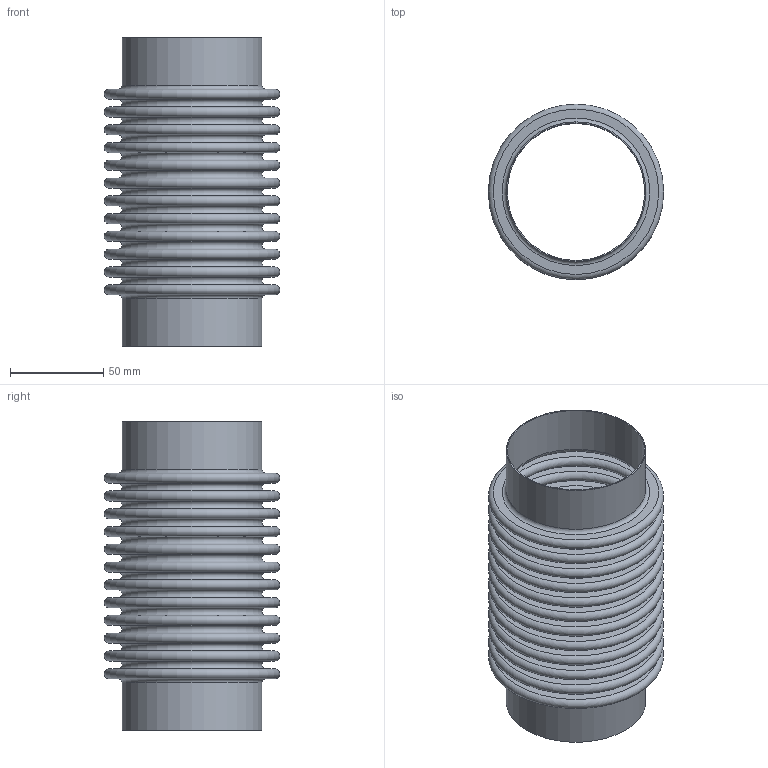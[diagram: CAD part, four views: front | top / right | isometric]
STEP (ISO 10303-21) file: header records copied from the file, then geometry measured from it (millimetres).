
FILE_DESCRIPTION(/* description */ ('STOCK BELLOWS: U.S-2.5-12-150L, 2.900 I.D., 3.700 O.D., 1 PLY, 24 GA (0.024 THICK), 12 CONS., 0.375 PITCH, 1.000 TANGENT. '),/* implementation_level */ '2;1');
FILE_NAME(/* name */ 'US-2.5-12-150L.stp',/* time_stamp */ '2026-07-21T11:27:10-05:00',/* author */ ('KennethB'),/* organization */ (''),/* preprocessor_version */ 'ST-DEVELOPER v20.1',/* originating_system */ 'Autodesk Inventor 2026',/* authorisation */ '');
FILE_SCHEMA (('AUTOMOTIVE_DESIGN { 1 0 10303 214 3 1 1 }'));
Length unit declared in the file: inch
Products named in the file (1): Part1
Bounding box: 93.98 x 93.98 x 165.1 mm (x, y, z)
Volume: 54492.4 mm3; surface area: 179634.1 mm2
Topology: 3 solids, 3 shells, 108 faces, 162 edges, 109 vertices
Faces by surface type: plane 54, torus 50, cylinder 4
Full cylindrical faces by diameter (mm): 73.66 x2, 74.879 x2
Entity records: 2550 total; most frequent: DIRECTION 538, CARTESIAN_POINT 380, ORIENTED_EDGE 324, AXIS2_PLACEMENT_3D 267, EDGE_LOOP 162, EDGE_CURVE 162, CIRCLE 158, FACE_OUTER_BOUND 108
